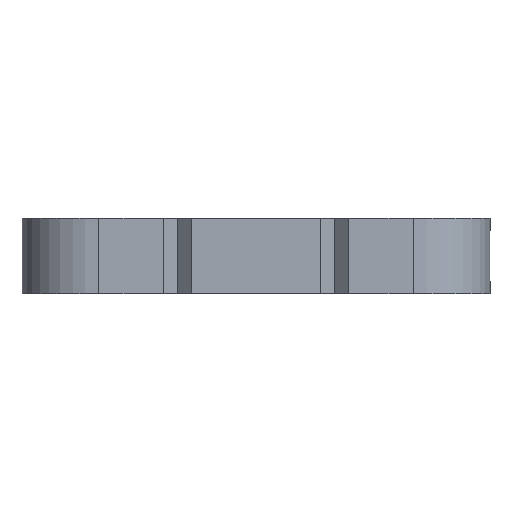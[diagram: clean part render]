
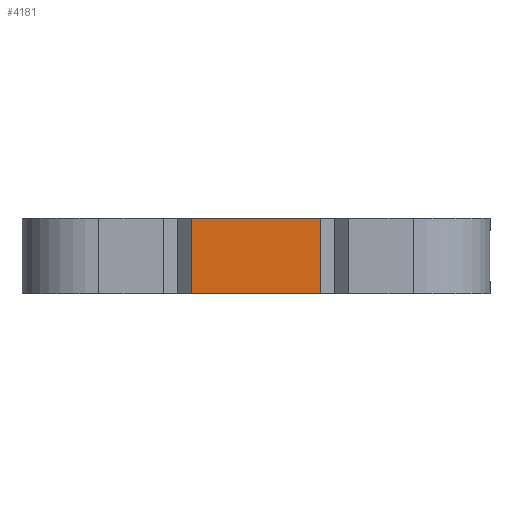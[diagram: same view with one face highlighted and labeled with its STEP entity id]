
A CAD part, left-side view. The second image highlights one B-rep face of the part: STEP entity #4181.
In plain terms, the highlighted planar face has unit normal (-1, 0, 0).
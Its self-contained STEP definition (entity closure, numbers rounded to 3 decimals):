
#810 = ORIENTED_EDGE ( 'NONE', *, *, #3023, .F. ) ;
#936 = CARTESIAN_POINT ( 'NONE',  ( -18.9, -5.219, -3.05 ) ) ;
#1711 = VERTEX_POINT ( 'NONE', #14414 ) ;
#1902 = LINE ( 'NONE', #10994, #12018 ) ;
#2318 = DIRECTION ( 'NONE',  ( 0., 0., 1. ) ) ;
#2815 = CARTESIAN_POINT ( 'NONE',  ( -18.9, 0., 3.05 ) ) ;
#2885 = DIRECTION ( 'NONE',  ( 0., -1., 0. ) ) ;
#2983 = DIRECTION ( 'NONE',  ( 0., 1., 0. ) ) ;
#3023 = EDGE_CURVE ( 'NONE', #8325, #1711, #1902, .T. ) ;
#3962 = EDGE_CURVE ( 'NONE', #1711, #9353, #14068, .T. ) ;
#4053 = VECTOR ( 'NONE', #2983, 1000. ) ;
#4075 = VECTOR ( 'NONE', #11792, 1000. ) ;
#4181 = ADVANCED_FACE ( 'NONE', ( #9263 ), #11819, .F. ) ;
#5308 = VERTEX_POINT ( 'NONE', #8860 ) ;
#5640 = DIRECTION ( 'NONE',  ( 0., 1., 0. ) ) ;
#6543 = EDGE_CURVE ( 'NONE', #5308, #9353, #9274, .T. ) ;
#7427 = EDGE_CURVE ( 'NONE', #8325, #5308, #13070, .T. ) ;
#7910 = ORIENTED_EDGE ( 'NONE', *, *, #7427, .T. ) ;
#8325 = VERTEX_POINT ( 'NONE', #936 ) ;
#8860 = CARTESIAN_POINT ( 'NONE',  ( -18.9, -5.219, 3.05 ) ) ;
#9263 = FACE_OUTER_BOUND ( 'NONE', #16233, .T. ) ;
#9274 = LINE ( 'NONE', #2815, #4053 ) ;
#9353 = VERTEX_POINT ( 'NONE', #14658 ) ;
#10994 = CARTESIAN_POINT ( 'NONE',  ( -18.9, 0., -3.05 ) ) ;
#11792 = DIRECTION ( 'NONE',  ( 0., 0., 1. ) ) ;
#11819 = PLANE ( 'NONE',  #14228 ) ;
#11906 = CARTESIAN_POINT ( 'NONE',  ( -18.9, 5.219, -1. ) ) ;
#12001 = DIRECTION ( 'NONE',  ( 1., 0., 0. ) ) ;
#12018 = VECTOR ( 'NONE', #5640, 1000. ) ;
#12696 = CARTESIAN_POINT ( 'NONE',  ( -18.9, 5.219, -1. ) ) ;
#13070 = LINE ( 'NONE', #14444, #4075 ) ;
#13711 = ORIENTED_EDGE ( 'NONE', *, *, #6543, .T. ) ;
#13967 = VECTOR ( 'NONE', #2318, 1000. ) ;
#14068 = LINE ( 'NONE', #12696, #13967 ) ;
#14228 = AXIS2_PLACEMENT_3D ( 'NONE', #11906, #12001, #2885 ) ;
#14414 = CARTESIAN_POINT ( 'NONE',  ( -18.9, 5.219, -3.05 ) ) ;
#14444 = CARTESIAN_POINT ( 'NONE',  ( -18.9, -5.219, -1. ) ) ;
#14658 = CARTESIAN_POINT ( 'NONE',  ( -18.9, 5.219, 3.05 ) ) ;
#16122 = ORIENTED_EDGE ( 'NONE', *, *, #3962, .F. ) ;
#16233 = EDGE_LOOP ( 'NONE', ( #810, #7910, #13711, #16122 ) ) ;
